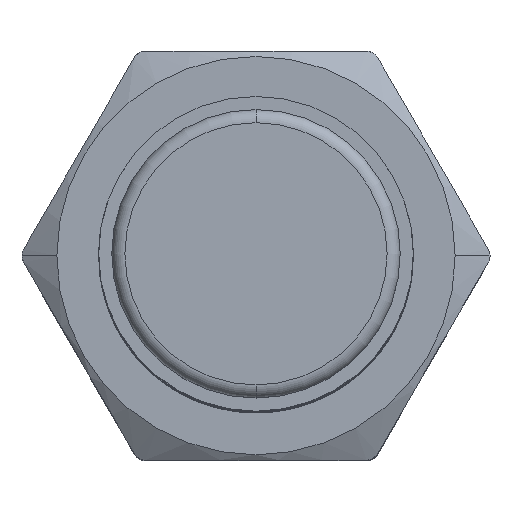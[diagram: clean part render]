
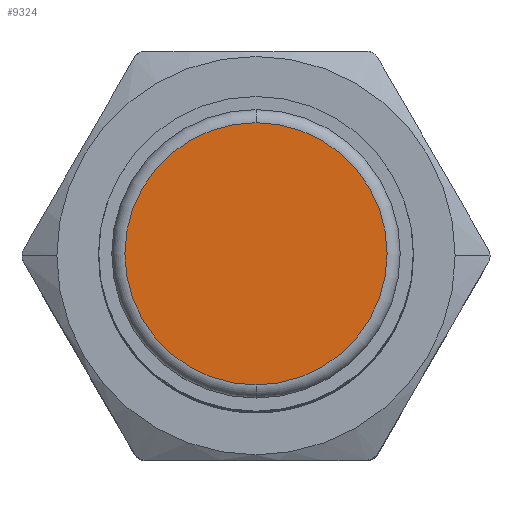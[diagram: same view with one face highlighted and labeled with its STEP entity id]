
A CAD part, top view. The second image highlights one B-rep face of the part: STEP entity #9324.
In plain terms, the highlighted planar face has unit normal (0, 0, 1).
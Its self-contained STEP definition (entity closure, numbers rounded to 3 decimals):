
#4610=CARTESIAN_POINT('',(0.,0.,68.));
#4611=DIRECTION('',(0.,0.,1.));
#4612=DIRECTION('',(0.,-1.,0.));
#4613=AXIS2_PLACEMENT_3D('',#4610,#4611,#4612);
#4615=CARTESIAN_POINT('',(0.,0.,68.));
#4616=DIRECTION('',(0.,0.,1.));
#4617=DIRECTION('',(0.,1.,0.));
#4618=AXIS2_PLACEMENT_3D('',#4615,#4616,#4617);
#4930=CARTESIAN_POINT('',(0.,-5.,68.));
#4931=CARTESIAN_POINT('',(0.,5.,68.));
#4932=VERTEX_POINT('',#4930);
#4933=VERTEX_POINT('',#4931);
#9314=CARTESIAN_POINT('',(0.,0.,68.));
#9315=DIRECTION('',(0.,0.,1.));
#9316=DIRECTION('',(0.,-1.,0.));
#9317=AXIS2_PLACEMENT_3D('',#9314,#9315,#9316);
#9318=PLANE('',#9317);
#9319=ORIENTED_EDGE('',*,*,#9304,.F.);
#9321=ORIENTED_EDGE('',*,*,#9320,.F.);
#9322=EDGE_LOOP('',(#9319,#9321));
#9323=FACE_OUTER_BOUND('',#9322,.F.);
#4614=CIRCLE('',#4613,5.);
#4619=CIRCLE('',#4618,5.);
#9304=EDGE_CURVE('',#4932,#4933,#4614,.T.);
#9320=EDGE_CURVE('',#4933,#4932,#4619,.T.);
#9324=ADVANCED_FACE('',(#9323),#9318,.T.);
